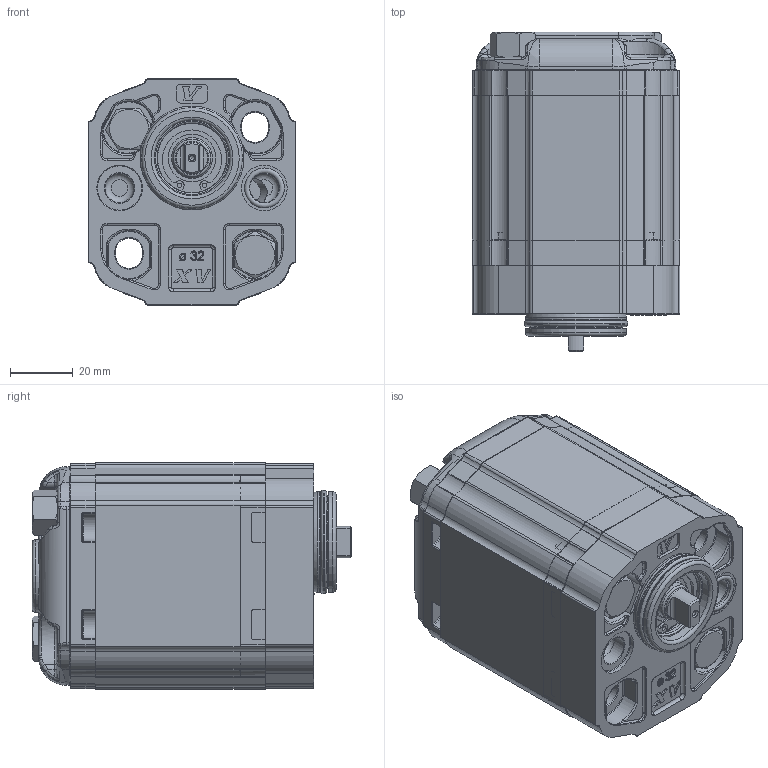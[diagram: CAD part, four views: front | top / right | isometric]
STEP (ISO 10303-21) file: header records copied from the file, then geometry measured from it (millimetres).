
FILE_DESCRIPTION( ( 'Unknown' ), '1' );
FILE_NAME( 'P:/montaggio_easy/output/STP/X1P2744DZZB.stp', 'Unknown', ( 'Unknown' ), ( 'Unknown' ), 'PSStep 14.0', 'Unknown', ' ' );
FILE_SCHEMA( ( 'AUTOMOTIVE_DESIGN { 1 0 10303 214 1 1 1 1 }' ) );
Length unit declared in the file: millimetre
Products named in the file (6): Assem1; X1P44; 1D; X1ZZH54; XP119-B
Bounding box: 66 x 101.5 x 72 mm (x, y, z)
Surface area: 131700.1 mm2
Topology: 10 solids, 12 shells, 2624 faces, 6498 edges, 4034 vertices
Faces by surface type: plane 958, cylinder 822, torus 354, bspline 252, extrusion 126, cone 104, sphere 8
Full cylindrical faces by diameter (mm): 1.447 x4, 1.5 x2, 2.5 x2, 3 x8, 8 x8, 8.5 x6, 9 x6, 9.3 x4, 9.5 x2, 10 x2, 10.5 x4, 11.965 x2, 12 x6, 12.7 x4, 12.923 x2, 14.5 x4, 14.95 x4, 15.115 x2, 15.181 x2, 19 x2, 20 x2, 22 x4, 22.2 x2, 23 x2, 24 x2, 29.4 x4, 32 x4, 32.96 x2
Entity records: 56315 total; most frequent: CARTESIAN_POINT 15812, DIRECTION 6177, ORIENTED_EDGE 6174, EDGE_CURVE 3087, AXIS2_PLACEMENT_3D 2332, VERTEX_POINT 1970, VECTOR 1513, EDGE_LOOP 1512
